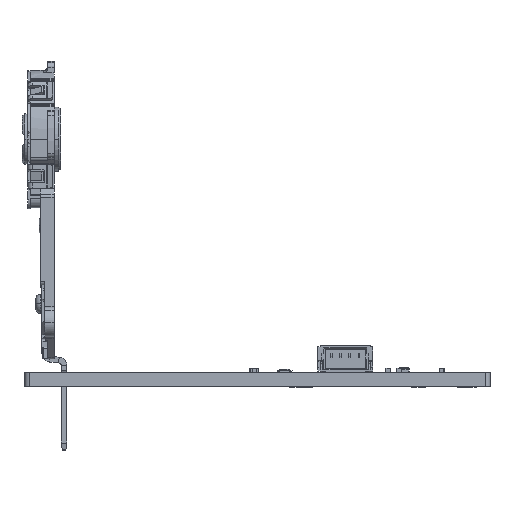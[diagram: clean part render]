
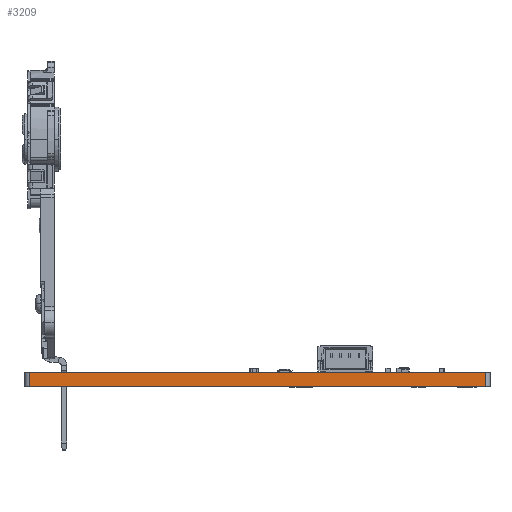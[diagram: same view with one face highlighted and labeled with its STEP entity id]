
A CAD part, front view. The second image highlights one B-rep face of the part: STEP entity #3209.
In plain terms, the highlighted planar face has unit normal (0, -1, 0).
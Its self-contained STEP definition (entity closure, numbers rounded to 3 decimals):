
#3209=ADVANCED_FACE('',(#8113),#8114,.T.);
#8113=FACE_OUTER_BOUND('',#14901,.T.);
#8114=PLANE('',#14902);
#14901=EDGE_LOOP('',(#21577,#21578,#21579,#21580));
#14902=AXIS2_PLACEMENT_3D('',#21581,#21582,#21583);
#21577=ORIENTED_EDGE('',*,*,#40976,.F.);
#21578=ORIENTED_EDGE('',*,*,#41073,.T.);
#21579=ORIENTED_EDGE('',*,*,#41008,.T.);
#21580=ORIENTED_EDGE('',*,*,#41071,.F.);
#21581=CARTESIAN_POINT('',(-2.04,-2.54,0.034));
#21582=DIRECTION('',(0.0,-1.0,0.));
#21583=DIRECTION('',(0.0,0.,-1.0));
#40976=EDGE_CURVE('',#48760,#48762,#48763,.T.);
#41008=EDGE_CURVE('',#48825,#48823,#48826,.T.);
#41071=EDGE_CURVE('',#48762,#48823,#48908,.T.);
#41073=EDGE_CURVE('',#48760,#48825,#48910,.T.);
#48760=VERTEX_POINT('',#60178);
#48762=VERTEX_POINT('',#60180);
#48763=LINE('',#60181,#60182);
#48823=VERTEX_POINT('',#60254);
#48825=VERTEX_POINT('',#60256);
#48826=LINE('',#60257,#60258);
#48908=LINE('',#60365,#60366);
#48910=LINE('',#60368,#60369);
#60178=CARTESIAN_POINT('',(-2.04,-2.54,1.564));
#60180=CARTESIAN_POINT('',(47.76,-2.54,1.564));
#60181=CARTESIAN_POINT('',(22.86,-2.54,1.564));
#60182=VECTOR('',#76017,1.0);
#60254=CARTESIAN_POINT('',(47.76,-2.54,0.034));
#60256=CARTESIAN_POINT('',(-2.04,-2.54,0.034));
#60257=CARTESIAN_POINT('',(-2.04,-2.54,0.034));
#60258=VECTOR('',#76084,1.0);
#60365=CARTESIAN_POINT('',(47.76,-2.54,0.799));
#60366=VECTOR('',#76149,1.0);
#60368=CARTESIAN_POINT('',(-2.04,-2.54,0.799));
#60369=VECTOR('',#76150,1.0);
#76017=DIRECTION('',(1.0,0.0,0.0));
#76084=DIRECTION('',(1.0,0.0,0.0));
#76149=DIRECTION('',(0.,0.,-1.0));
#76150=DIRECTION('',(0.,0.,-1.0));
